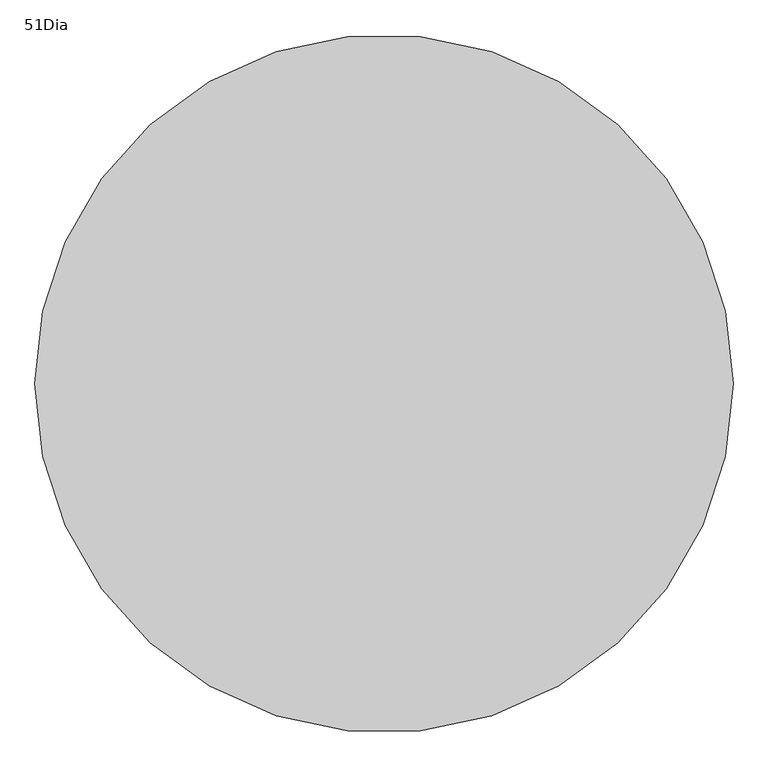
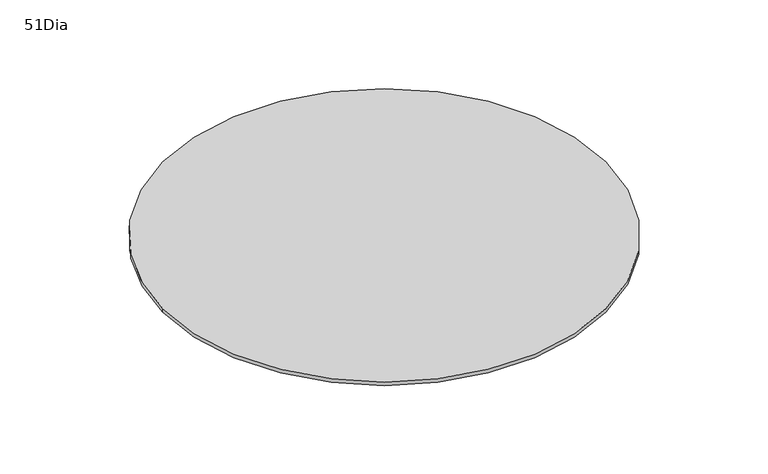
"""IFC4 building model written with IfcOpenShell, lengths in millimetres: furniture geometry, EMU_Table_Outdoor_Heaven_Pouf_GlassTop : 51Dia."""

import ifcopenshell
import ifcopenshell.guid

model = None  # the IFC model being written
_history = None  # IfcOwnerHistory: only IFC2X3 demands one
_inside = {}  # id of a spatial element -> (the spatial element, [elements in it])
_under = {}  # id of a project, library or spatial element -> (it, [spatial elements below it])
_declared = {}  # id of a project -> (the project, [libraries it declares])
_typed = {}  # id of a type object -> (the type object, [elements of that type])
_made_of = {}  # id of a material, layer set ... -> (it, [elements and type objects made of it])


def new_model(schema):
    """Start an empty IFC model of exactly this schema.

    Asked for "IFC4X3", IfcOpenShell would pick the latest addendum, in which some entities
    have other attributes; the version numbers below select the first issue.
    IFC2X3 requires an IfcOwnerHistory on every rooted entity: one is made here for all.
    """
    global model, _history
    if schema == "IFC4X3":
        model = ifcopenshell.file(schema_version=(4, 3, 0, 0))
    else:
        model = ifcopenshell.file(schema=schema)
    _inside.clear()
    _under.clear()
    _declared.clear()
    _typed.clear()
    _made_of.clear()
    _history = None
    if model.schema == "IFC2X3":
        org = make("IfcOrganization", Name="unknown")
        user = make(
            "IfcPersonAndOrganization",
            ThePerson=make("IfcPerson", FamilyName="unknown"),
            TheOrganization=org,
        )
        app = make(
            "IfcApplication",
            ApplicationDeveloper=org,
            Version="unknown",
            ApplicationFullName="unknown",
            ApplicationIdentifier="unknown",
        )
        _history = make(
            "IfcOwnerHistory",
            OwningUser=user,
            OwningApplication=app,
            ChangeAction="ADDED",
            CreationDate=0,
        )
    return model


def make(cls, **values):
    """One entity of the class cls with the attributes given. An attribute that is None is left unset."""
    return model.create_entity(
        cls, **{name: value for name, value in values.items() if value is not None}
    )


def rooted(cls, **values):
    """An entity with a GlobalId (a new one), such as an element, a storey or a relation."""
    return make(cls, GlobalId=ifcopenshell.guid.new(), OwnerHistory=_history, **values)


def si_unit(unit_type, name, prefix=None):
    """IfcSIUnit, for example si_unit("LENGTHUNIT", "METRE", prefix="MILLI")."""
    return make("IfcSIUnit", UnitType=unit_type, Prefix=prefix, Name=name)


def assignment(units):
    """IfcUnitAssignment: the units of a project."""
    return None if units is None else make("IfcUnitAssignment", Units=units)


def point(xyz):
    """IfcCartesianPoint."""
    return None if xyz is None else make("IfcCartesianPoint", Coordinates=xyz)


def direction(xyz):
    """IfcDirection."""
    return None if xyz is None else make("IfcDirection", DirectionRatios=xyz)


def frame(location, z_axis=None, x_axis=None):
    """IfcAxis2Placement3D, a coordinate frame: its origin and axes. An axis left out is left unset."""
    return make(
        "IfcAxis2Placement3D",
        Location=point(location),
        Axis=direction(z_axis),
        RefDirection=direction(x_axis),
    )


def frame_2d(location, x_axis=None):
    """IfcAxis2Placement2D, a coordinate frame in the plane: its origin and x axis."""
    return make(
        "IfcAxis2Placement2D", Location=point(location), RefDirection=direction(x_axis)
    )


def origin():
    """The frame at (0, 0, 0) with its axes left unset."""
    return frame((0.0, 0.0, 0.0))


def place(relative_to, where):
    """IfcLocalPlacement: puts the frame where relative to a parent placement (None: the world)."""
    return make(
        "IfcLocalPlacement", PlacementRelTo=relative_to, RelativePlacement=where
    )


def context(
    kind, dimensions, precision=None, world=None, true_north=None, identifier=None
):
    """IfcGeometricRepresentationContext, for example the 3D "Model" context."""
    return make(
        "IfcGeometricRepresentationContext",
        ContextIdentifier=identifier,
        ContextType=kind,
        CoordinateSpaceDimension=dimensions,
        Precision=precision,
        WorldCoordinateSystem=world,
        TrueNorth=true_north,
    )


def project(units=None, contexts=None):
    """IfcProject with its units and contexts."""
    return rooted(
        "IfcProject",
        Name="project",
        RepresentationContexts=contexts,
        UnitsInContext=assignment(units),
    )


def spatial(cls, under=None, at=None, **own):
    """A site, building, storey or space (cls), placed at a placement, below another one or the project."""
    s = rooted(cls, ObjectPlacement=at, **own)
    if under is not None:
        _under.setdefault(under.id(), (under, []))[1].append(s)
    return s


def circle_curve(where, radius):
    """IfcCircle in the frame where."""
    return make("IfcCircle", Position=where, Radius=radius)


def trimmed(basis, trim1, trim2, sense, master):
    """IfcTrimmedCurve: the piece of a basis curve between two trims."""
    return make(
        "IfcTrimmedCurve",
        BasisCurve=basis,
        Trim1=trim1,
        Trim2=trim2,
        SenseAgreement=sense,
        MasterRepresentation=master,
    )


def segment(curve, same_sense, transition):
    """IfcCompositeCurveSegment."""
    return make(
        "IfcCompositeCurveSegment",
        Transition=transition,
        SameSense=same_sense,
        ParentCurve=curve,
    )


def composite_curve(segments, self_intersect=None):
    """IfcCompositeCurve: segments joined end to end."""
    return make("IfcCompositeCurve", Segments=segments, SelfIntersect=self_intersect)


def outline(outer, holes=None, kind="AREA"):
    """IfcArbitraryClosedProfileDef: a profile drawn as a closed curve; with holes, ...WithVoids."""
    if holes is None:
        return make("IfcArbitraryClosedProfileDef", ProfileType=kind, OuterCurve=outer)
    return make(
        "IfcArbitraryProfileDefWithVoids",
        ProfileType=kind,
        OuterCurve=outer,
        InnerCurves=holes,
    )


def extrude(swept, where, along, depth):
    """IfcExtrudedAreaSolid: the profile swept, set in the frame where, extruded along a direction by depth."""
    return make(
        "IfcExtrudedAreaSolid",
        SweptArea=swept,
        Position=where,
        ExtrudedDirection=direction(along),
        Depth=depth,
    )


def shape(context_of_items, identifier, shape_type, items):
    """IfcShapeRepresentation: the items that make up one representation, for example the "Body"."""
    return make(
        "IfcShapeRepresentation",
        ContextOfItems=context_of_items,
        RepresentationIdentifier=identifier,
        RepresentationType=shape_type,
        Items=items,
    )


def source(mapping_origin, context_of_items, identifier, shape_type, items):
    """IfcRepresentationMap: a shape defined once, which mapped items show again and again."""
    return make(
        "IfcRepresentationMap",
        MappingOrigin=mapping_origin,
        MappedRepresentation=shape(context_of_items, identifier, shape_type, items),
    )


def transform(
    local_origin,
    x_axis=None,
    y_axis=None,
    z_axis=None,
    scale=None,
    scale2=None,
    scale3=None,
    uniform=True,
):
    """IfcCartesianTransformationOperator3D, or its non-uniform kind. x_axis, y_axis, z_axis: its Axis1, 2, 3."""
    if uniform:
        return make(
            "IfcCartesianTransformationOperator3D",
            Axis1=direction(x_axis),
            Axis2=direction(y_axis),
            LocalOrigin=point(local_origin),
            Scale=scale,
            Axis3=direction(z_axis),
        )
    return make(
        "IfcCartesianTransformationOperator3DnonUniform",
        Axis1=direction(x_axis),
        Axis2=direction(y_axis),
        LocalOrigin=point(local_origin),
        Scale=scale,
        Axis3=direction(z_axis),
        Scale2=scale2,
        Scale3=scale3,
    )


def mapped(mapping_source, mapping_target):
    """IfcMappedItem: shows the shape of a source again, moved by a transform."""
    return make(
        "IfcMappedItem", MappingSource=mapping_source, MappingTarget=mapping_target
    )


def made_of(thing, what):
    """Note that an element or type object is made of a material, layer set ...; save() writes the relation."""
    if what is not None:
        _made_of.setdefault(what.id(), (what, []))[1].append(thing)
    return thing


def element(
    cls,
    number,
    at=None,
    inside=None,
    cuts=None,
    type_object=None,
    material=None,
    context=None,
    identifier="Body",
    shape_type=None,
    held_by="IfcProductDefinitionShape",
    body=None,
    shapes=None,
    **own,
):
    """One element of the class cls, such as IfcWall. Its Tag is "e" and its number.

    at: its placement. inside: the storey or other place that contains it. cuts: it is an
    opening in that element (IfcRelVoidsElement). A single representation is given by context,
    identifier, shape_type and body (its items); several are given by shapes. held_by: the class
    of the entity that holds the representations. save() writes the other relations.
    """
    e = rooted(cls, Tag="e%d" % number, ObjectPlacement=at, **own)
    if body is not None:
        shapes = [shape(context, identifier, shape_type, body)]
    if shapes is not None:
        e.Representation = make(held_by, Representations=shapes)
    if inside is not None:
        _inside.setdefault(inside.id(), (inside, []))[1].append(e)
    if cuts is not None:
        rooted(
            "IfcRelVoidsElement", RelatingBuildingElement=cuts, RelatedOpeningElement=e
        )
    if type_object is not None:
        _typed.setdefault(type_object.id(), (type_object, []))[1].append(e)
    return made_of(e, material)


def aggregate(whole, parts):
    """IfcRelAggregates: a whole, such as a stair, and the parts it consists of."""
    return rooted("IfcRelAggregates", RelatingObject=whole, RelatedObjects=parts)


def save(model, path):
    """Write the relations noted so far, then the file.

    IfcRelAggregates (storeys below a building ...), IfcRelContainedInSpatialStructure (elements
    in a storey), IfcRelDefinesByType, IfcRelAssociatesMaterial and IfcRelDeclares: one each for
    every whole, place, type object, material and project.
    """
    for whole, parts in _under.values():
        aggregate(whole, parts)
    for where, things in _inside.values():
        rooted(
            "IfcRelContainedInSpatialStructure",
            RelatedElements=things,
            RelatingStructure=where,
        )
    for kind, things in _typed.values():
        rooted("IfcRelDefinesByType", RelatedObjects=things, RelatingType=kind)
    for what, things in _made_of.values():
        rooted("IfcRelAssociatesMaterial", RelatedObjects=things, RelatingMaterial=what)
    for by, libraries in _declared.values():
        rooted("IfcRelDeclares", RelatingContext=by, RelatedDefinitions=libraries)
    model.write(path)


def furniture_51dia_19f0d5e0(model_context):
    return source(origin(), model_context, "Body", "SweptSolid", [
        extrude(outline(composite_curve([segment(trimmed(circle_curve(frame_2d((604.5683304, -398.2983219)), 603.25), [point((1.3183304, -398.2983219))], [point((1207.8183304, -398.2983219))], False, "CARTESIAN"), True, "CONTINUOUS"), segment(trimmed(circle_curve(frame_2d((604.5683304, -398.2983219)), 603.25), [point((1207.8183304, -398.2983219))], [point((1.3183304, -398.2983219))], False, "CARTESIAN"), True, "CONTINUOUS")], self_intersect=False)), frame((0.0, 0.0, 740.8140112), z_axis=(0.0, 0.0, 1.0), x_axis=(1.0, 0.0, 0.0)), (0.0, 0.0, 1.0), 10.2668879),
    ])


if __name__ == "__main__":
    model = new_model("IFC4")
    model_context = context("Model", 3, world=origin())
    ifc_project = project(units=[si_unit("LENGTHUNIT", "METRE", prefix="MILLI")], contexts=[model_context])
    site = spatial("IfcSite", under=ifc_project)
    building = spatial("IfcBuilding", under=site)
    placement = place(None, origin())
    furniture_51dia_shape = furniture_51dia_19f0d5e0(model_context)
    element("IfcFurniture", 1, ObjectType="EMU_Table_Outdoor_Heaven_Pouf_GlassTop : 51Dia", at=placement, inside=building, context=model_context, shape_type="MappedRepresentation", body=[
        mapped(furniture_51dia_shape, transform((0.0, 0.0, 0.0), x_axis=(1.0, 0.0, 0.0), y_axis=(0.0, 1.0, 0.0), z_axis=(0.0, 0.0, 1.0))),
    ])
    save(model, "model.ifc")
